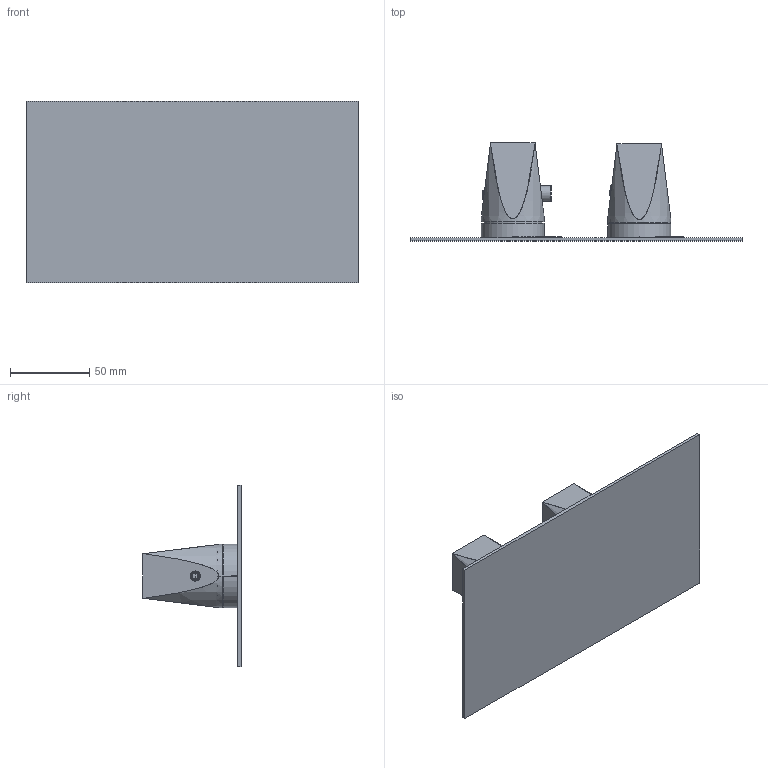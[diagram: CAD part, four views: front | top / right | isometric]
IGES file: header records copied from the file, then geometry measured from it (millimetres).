
Start section:  PTC IGES file: 49712V2.igs
Global section: file name: 49712V2.igs; native system: Creo Parametric by PTC Inc.; preprocessor: 2022014; author: carloff; organization: Unknown; date: 20230921.100749; units: millimetre
Bounding box: 210 x 62 x 115 mm (x, y, z)
Surface area: 70962 mm2 (no closed solid volume)
Topology: 0 solids, 0 shells, 616 faces, 3172 edges, 3166 vertices
Faces by surface type: bspline 373, extrusion 166, revolution 77
